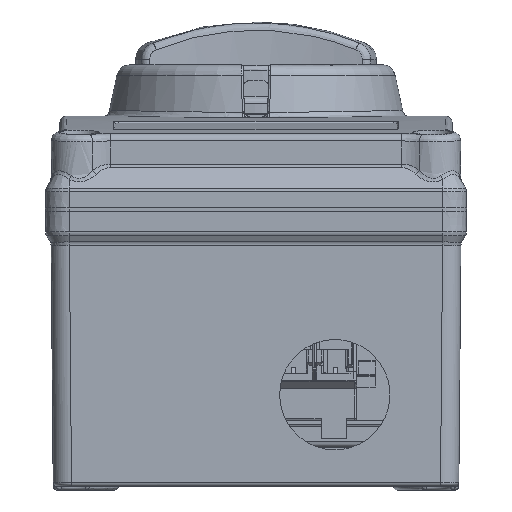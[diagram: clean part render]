
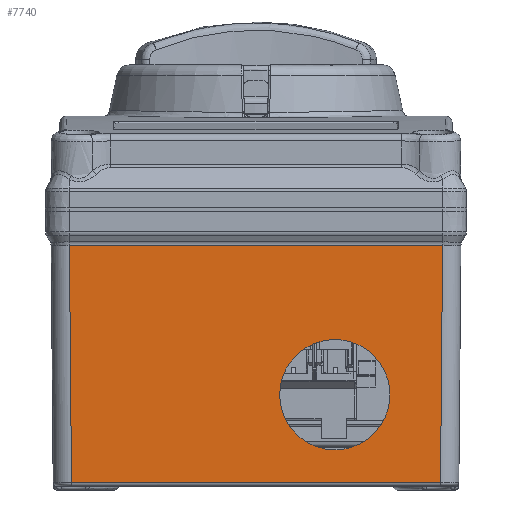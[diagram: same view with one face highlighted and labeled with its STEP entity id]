
A CAD part, front view. The second image highlights one B-rep face of the part: STEP entity #7740.
In plain terms, the highlighted planar face has unit normal (0, -1, -0.009).
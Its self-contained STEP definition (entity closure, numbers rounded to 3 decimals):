
#544=ELLIPSE('',#16739,15.051,15.05);
#1458=LINE('',#20590,#2135);
#1519=LINE('',#24301,#2196);
#1558=LINE('',#24849,#2235);
#1610=LINE('',#26686,#2287);
#2135=VECTOR('',#17914,1.);
#2196=VECTOR('',#18063,1.);
#2235=VECTOR('',#18172,1.);
#2287=VECTOR('',#18272,1.);
#2523=FACE_BOUND('',#9084,.T.);
#2524=FACE_BOUND('',#9085,.T.);
#7740=ADVANCED_FACE('',(#2523,#2524),#8183,.F.);
#8183=PLANE('',#16740);
#9084=EDGE_LOOP('',(#10683,#10684,#10685,#10686));
#9085=EDGE_LOOP('',(#10687));
#10683=ORIENTED_EDGE('',*,*,#14836,.T.);
#10684=ORIENTED_EDGE('',*,*,#14951,.T.);
#10685=ORIENTED_EDGE('',*,*,#14521,.T.);
#10686=ORIENTED_EDGE('',*,*,#14765,.F.);
#10687=ORIENTED_EDGE('',*,*,#14952,.T.);
#13012=VERTEX_POINT('',#20581);
#13015=VERTEX_POINT('',#20589);
#13191=VERTEX_POINT('',#24300);
#13235=VERTEX_POINT('',#24848);
#13309=VERTEX_POINT('',#26688);
#14521=EDGE_CURVE('',#13012,#13015,#1458,.T.);
#14765=EDGE_CURVE('',#13191,#13015,#1519,.T.);
#14836=EDGE_CURVE('',#13191,#13235,#1558,.T.);
#14951=EDGE_CURVE('',#13235,#13012,#1610,.T.);
#14952=EDGE_CURVE('',#13309,#13309,#544,.T.);
#16739=AXIS2_PLACEMENT_3D('',#26687,#18273,#18274);
#16740=AXIS2_PLACEMENT_3D('',#26689,#18275,#18276);
#17914=DIRECTION('',(1.,0.,0.));
#18063=DIRECTION('',(-0.009,0.009,-1.));
#18172=DIRECTION('',(-1.,0.,0.));
#18272=DIRECTION('',(0.009,0.009,-1.));
#18273=DIRECTION('',(0.,1.,0.009));
#18274=DIRECTION('',(0.,0.009,-1.));
#18275=DIRECTION('',(0.,1.,0.009));
#18276=DIRECTION('',(-1.,0.,0.));
#20581=CARTESIAN_POINT('',(-50.346,-92.845,-75.009));
#20589=CARTESIAN_POINT('',(50.346,-92.845,-75.009));
#20590=CARTESIAN_POINT('',(-50.346,-92.845,-75.009));
#24300=CARTESIAN_POINT('',(50.911,-93.41,-10.274));
#24301=CARTESIAN_POINT('',(50.911,-93.41,-10.274));
#24848=CARTESIAN_POINT('',(-50.911,-93.41,-10.274));
#24849=CARTESIAN_POINT('',(50.911,-93.41,-10.274));
#26686=CARTESIAN_POINT('',(-50.911,-93.41,-10.274));
#26687=CARTESIAN_POINT('',(21.5,-93.055,-51.));
#26688=CARTESIAN_POINT('',(21.5,-92.924,-66.05));
#26689=CARTESIAN_POINT('',(-56.,-93.5,0.));
